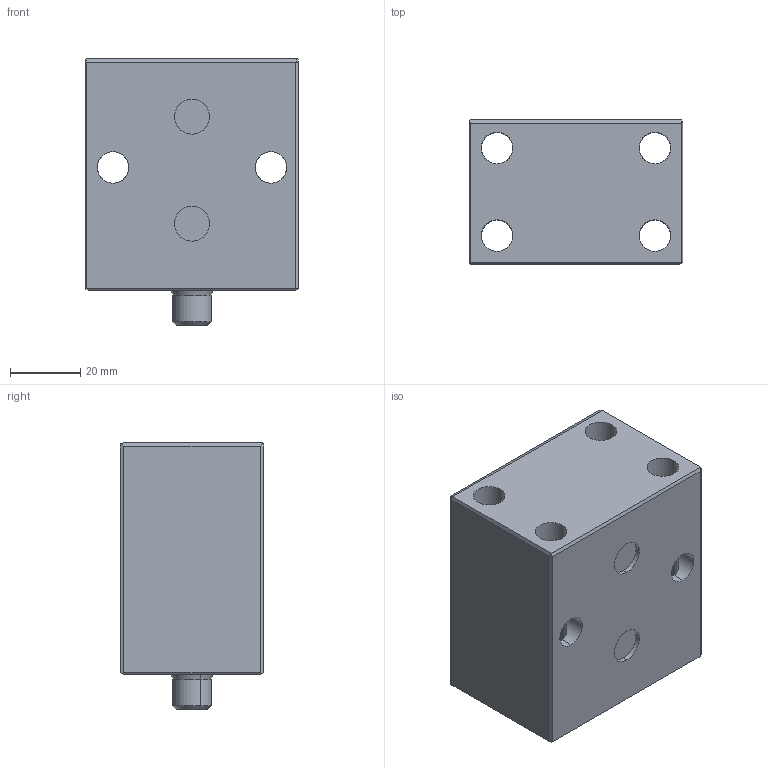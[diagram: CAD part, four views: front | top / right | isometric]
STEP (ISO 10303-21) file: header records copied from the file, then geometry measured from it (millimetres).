
FILE_DESCRIPTION (( 'STEP AP214' ), '1' );
FILE_NAME ('BC04-20-16F.STEP', '2021-12-30T06:09:34', ( '' ), ( '' ), 'SwSTEP 2.0', 'SolidWorks 2019', '' );
FILE_SCHEMA (( 'AUTOMOTIVE_DESIGN' ));
Length unit declared in the file: millimetre
Products named in the file (3): BODY; PISTON; BC04-20-16F
Assembly tree (2 placements, depth 2):
  BC04-20-16F
    BODY
    PISTON
Bounding box: 61 x 41 x 76 mm (x, y, z)
Volume: 142747.8 mm3; surface area: 31077.1 mm2
Topology: 2 solids, 2 shells, 87 faces, 210 edges, 119 vertices
Faces by surface type: cylinder 44, plane 27, cone 16
Entity records: 2584 total; most frequent: CARTESIAN_POINT 511, DIRECTION 420, ORIENTED_EDGE 408, EDGE_CURVE 204, AXIS2_PLACEMENT_3D 156, VERTEX_POINT 119, VECTOR 108, LINE 108
